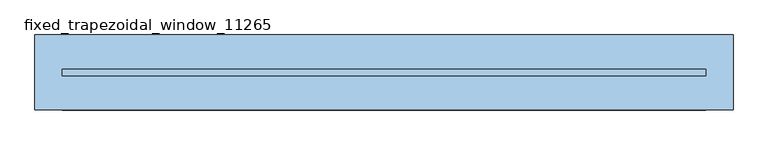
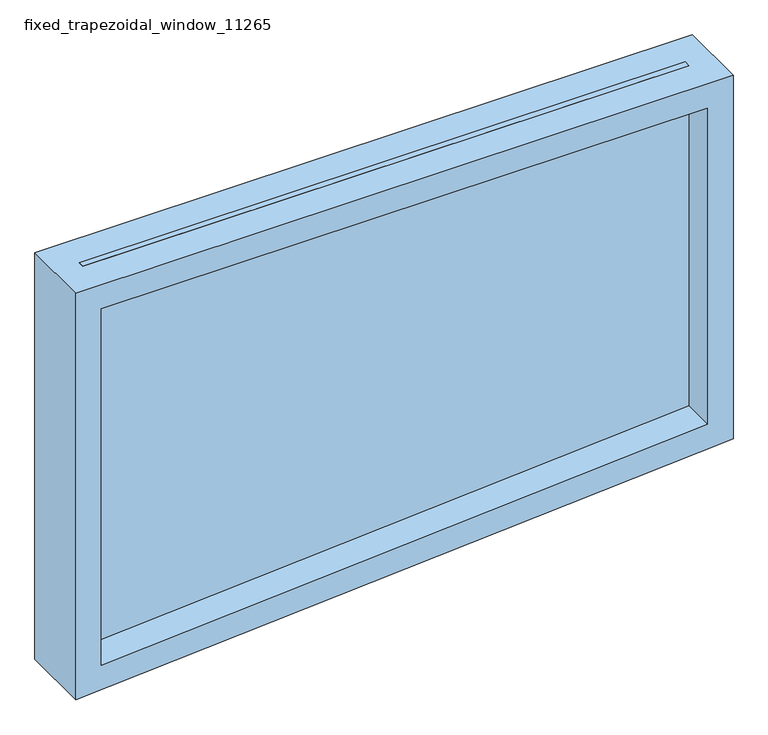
"""IFC4 building model written with IfcOpenShell, lengths in millimetres: window geometry, fixed_trapezoidal_window_11265 : Menuiserie 9.1."""

from ifc_helpers import new_model, si_unit, frame, origin, place, context, project, spatial, polyline, outline, extrude, source, transform, mapped, element, save


def fixed_trapezoidal_window_11265_a913c717(model_context):
    return source(origin(), model_context, "Body", "SweptSolid", [
        extrude(outline(polyline([(2069.2, -637.3), (1273.6763305, -637.3), (1357.4766219, 561.1), (2069.2, 561.1), (2069.2, -637.3)])), frame((0.0, -6.35, 0.0), z_axis=(0.0, 1.0, 0.0), x_axis=(0.0, 0.0, 1.0)), (0.0, 0.0, 1.0), 12.7),
        extrude(outline(polyline([(2069.2, 611.9), (2069.2, -688.1), (1219.2, -688.1), (1310.1048555, 611.9), (2069.2, 611.9)]), holes=[polyline([(2018.4, 561.1), (1357.4766219, 561.1), (1273.6763305, -637.3), (2018.4, -637.3), (2018.4, 561.1)])]), frame((0.0, -69.85, 0.0), z_axis=(0.0, 1.0, 0.0), x_axis=(0.0, 0.0, 1.0)), (0.0, 0.0, 1.0), 139.7),
    ])


if __name__ == "__main__":
    model = new_model("IFC4")
    model_context = context("Model", 3, world=origin())
    ifc_project = project(units=[si_unit("LENGTHUNIT", "METRE", prefix="MILLI")], contexts=[model_context])
    site = spatial("IfcSite", under=ifc_project)
    building = spatial("IfcBuilding", under=site)
    placement = place(None, origin())
    fixed_trapezoidal_window_11265_shape = fixed_trapezoidal_window_11265_a913c717(model_context)
    element("IfcWindow", 1, ObjectType="fixed_trapezoidal_window_11265 : Menuiserie 9.1", at=placement, inside=building, context=model_context, shape_type="MappedRepresentation", body=[
        mapped(fixed_trapezoidal_window_11265_shape, transform((0.0, 0.0, 0.0), x_axis=(1.0, 0.0, 0.0), y_axis=(0.0, 1.0, 0.0), z_axis=(0.0, 0.0, 1.0))),
    ])
    save(model, "model.ifc")
